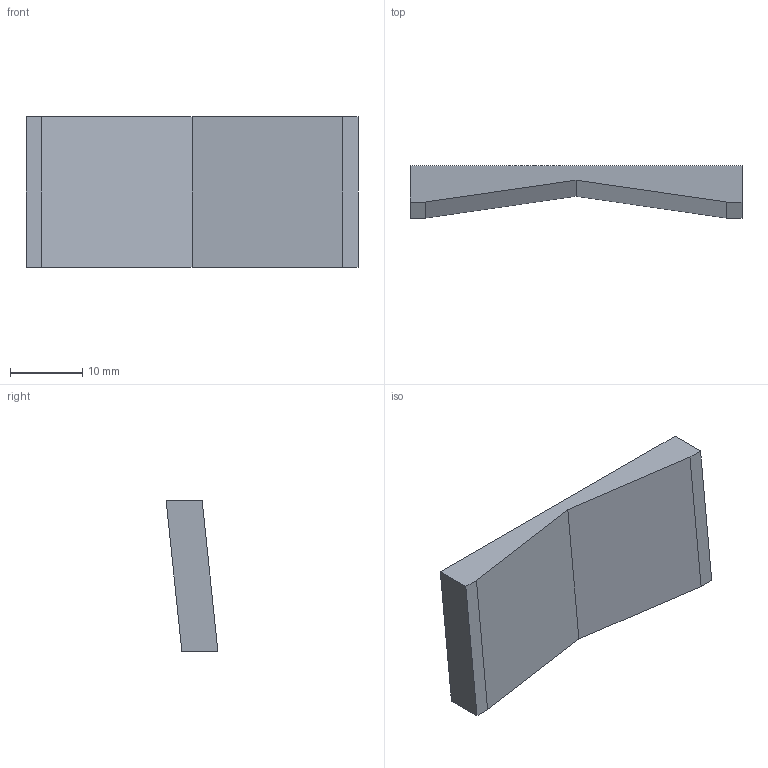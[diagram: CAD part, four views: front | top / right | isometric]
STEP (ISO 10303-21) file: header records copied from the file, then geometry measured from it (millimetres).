
FILE_DESCRIPTION(('Open CASCADE Model'),'2;1');
FILE_NAME('Open CASCADE Shape Model','2026-10-15T18:58:36',('Author'),( 'Open CASCADE'),'Open CASCADE STEP processor 7.9','Open CASCADE 7.9' ,'Unknown');
FILE_SCHEMA(('AUTOMOTIVE_DESIGN { 1 0 10303 214 1 1 1 1 }'));
Length unit declared in the file: millimetre
Products named in the file (1): Open CASCADE STEP translator 7.9 28
Bounding box: 46 x 7.19 x 20.83 mm (x, y, z)
Volume: 3477.1 mm3; surface area: 2478.3 mm2
Topology: 1 solids, 1 shells, 9 faces, 21 edges, 14 vertices
Faces by surface type: plane 9
Entity records: 538 total; most frequent: CARTESIAN_POINT 87, DIRECTION 83, LINE 63, VECTOR 63, ORIENTED_EDGE 42, PCURVE 42, DEFINITIONAL_REPRESENTATION 42, EDGE_CURVE 21
